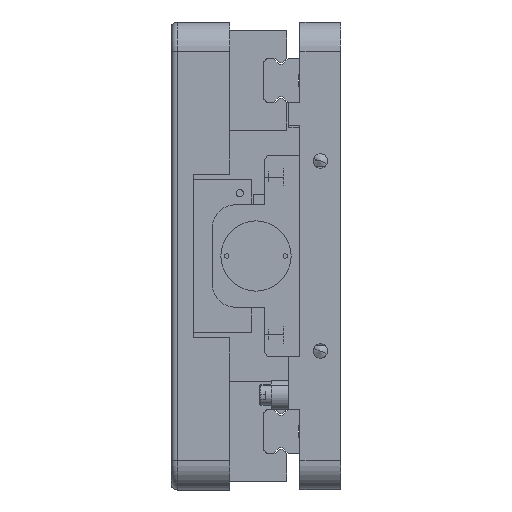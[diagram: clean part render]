
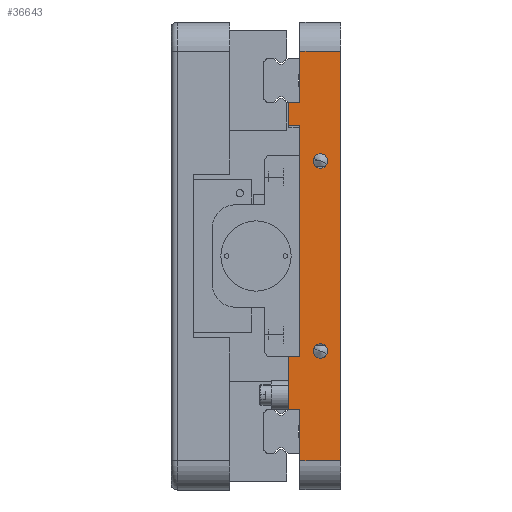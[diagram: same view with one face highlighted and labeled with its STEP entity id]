
A CAD part, left-side view. The second image highlights one B-rep face of the part: STEP entity #36643.
In plain terms, the highlighted planar face has unit normal (-1, 0, 0).
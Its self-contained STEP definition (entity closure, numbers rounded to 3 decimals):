
#3 = ORIENTED_EDGE ( 'NONE', *, *, #24467, .T. ) ;
#632 = VECTOR ( 'NONE', #18640, 1000. ) ;
#876 = EDGE_LOOP ( 'NONE', ( #13922, #3, #1436, #16928, #19367, #11763, #5750, #25355, #6249, #44823, #21766, #20881 ) ) ;
#1436 = ORIENTED_EDGE ( 'NONE', *, *, #7743, .T. ) ;
#1982 = ORIENTED_EDGE ( 'NONE', *, *, #30926, .F. ) ;
#2080 = DIRECTION ( 'NONE',  ( 0., 1., 0. ) ) ;
#2198 = DIRECTION ( 'NONE',  ( 0., 0., 1. ) ) ;
#2288 = LINE ( 'NONE', #8431, #38665 ) ;
#2707 = VERTEX_POINT ( 'NONE', #34325 ) ;
#3106 = CARTESIAN_POINT ( 'NONE',  ( -261.5, 7., -32.5 ) ) ;
#3333 = CARTESIAN_POINT ( 'NONE',  ( -261.5, 17.8, 70. ) ) ;
#3820 = EDGE_CURVE ( 'NONE', #29417, #30679, #15037, .T. ) ;
#4719 = VERTEX_POINT ( 'NONE', #11824 ) ;
#4997 = CARTESIAN_POINT ( 'NONE',  ( -261.5, 17.8, 52.5 ) ) ;
#5750 = ORIENTED_EDGE ( 'NONE', *, *, #3820, .T. ) ;
#6088 = VECTOR ( 'NONE', #14684, 1000. ) ;
#6249 = ORIENTED_EDGE ( 'NONE', *, *, #8070, .F. ) ;
#6602 = CIRCLE ( 'NONE', #21169, 2.5 ) ;
#6747 = VECTOR ( 'NONE', #29387, 1000. ) ;
#7493 = VERTEX_POINT ( 'NONE', #47288 ) ;
#7622 = AXIS2_PLACEMENT_3D ( 'NONE', #36233, #32754, #21485 ) ;
#7743 = EDGE_CURVE ( 'NONE', #48669, #10560, #27590, .T. ) ;
#8070 = EDGE_CURVE ( 'NONE', #17745, #23411, #21032, .T. ) ;
#8406 = CARTESIAN_POINT ( 'NONE',  ( -261.5, 17.8, -80. ) ) ;
#8431 = CARTESIAN_POINT ( 'NONE',  ( -261.5, 14., -80. ) ) ;
#8952 = DIRECTION ( 'NONE',  ( 0., 0., -1. ) ) ;
#8996 = DIRECTION ( 'NONE',  ( -1., 0., 0. ) ) ;
#10560 = VERTEX_POINT ( 'NONE', #33164 ) ;
#10596 = DIRECTION ( 'NONE',  ( 0., 0., -1. ) ) ;
#10709 = CARTESIAN_POINT ( 'NONE',  ( -261.5, -110.209, 44.5 ) ) ;
#10748 = CARTESIAN_POINT ( 'NONE',  ( -261.5, 17.8, -80. ) ) ;
#11723 = VECTOR ( 'NONE', #10596, 1000. ) ;
#11763 = ORIENTED_EDGE ( 'NONE', *, *, #36133, .F. ) ;
#11824 = CARTESIAN_POINT ( 'NONE',  ( -261.5, 7., -30. ) ) ;
#12224 = CARTESIAN_POINT ( 'NONE',  ( -261.5, 17.8, -70. ) ) ;
#13326 = CARTESIAN_POINT ( 'NONE',  ( -261.5, 7., 32.5 ) ) ;
#13523 = ORIENTED_EDGE ( 'NONE', *, *, #28416, .F. ) ;
#13889 = VECTOR ( 'NONE', #2198, 1000. ) ;
#13922 = ORIENTED_EDGE ( 'NONE', *, *, #21075, .T. ) ;
#14388 = FACE_OUTER_BOUND ( 'NONE', #876, .T. ) ;
#14612 = VECTOR ( 'NONE', #15849, 1000. ) ;
#14684 = DIRECTION ( 'NONE',  ( 0., 1., 0. ) ) ;
#15005 = FACE_BOUND ( 'NONE', #46132, .T. ) ;
#15026 = AXIS2_PLACEMENT_3D ( 'NONE', #3106, #29371, #40378 ) ;
#15037 = LINE ( 'NONE', #24068, #34378 ) ;
#15185 = DIRECTION ( 'NONE',  ( 1., 0., 0. ) ) ;
#15514 = CARTESIAN_POINT ( 'NONE',  ( -261.5, 0., -70. ) ) ;
#15849 = DIRECTION ( 'NONE',  ( 0., 0., 1. ) ) ;
#15901 = EDGE_CURVE ( 'NONE', #45512, #38316, #33087, .T. ) ;
#16344 = ORIENTED_EDGE ( 'NONE', *, *, #21728, .F. ) ;
#16527 = LINE ( 'NONE', #10748, #632 ) ;
#16578 = CARTESIAN_POINT ( 'NONE',  ( -261.5, 7., -35. ) ) ;
#16804 = LINE ( 'NONE', #10709, #6747 ) ;
#16844 = CARTESIAN_POINT ( 'NONE',  ( -261.5, 0., -80. ) ) ;
#16928 = ORIENTED_EDGE ( 'NONE', *, *, #36676, .T. ) ;
#17008 = VERTEX_POINT ( 'NONE', #16578 ) ;
#17123 = DIRECTION ( 'NONE',  ( -1., 0., 0. ) ) ;
#17745 = VERTEX_POINT ( 'NONE', #44159 ) ;
#17774 = VECTOR ( 'NONE', #2080, 1000. ) ;
#17928 = VECTOR ( 'NONE', #36971, 1000. ) ;
#17989 = CARTESIAN_POINT ( 'NONE',  ( -261.5, 14., 70. ) ) ;
#18259 = CARTESIAN_POINT ( 'NONE',  ( -261.5, 17.8, -34.5 ) ) ;
#18640 = DIRECTION ( 'NONE',  ( 0., 0., 1. ) ) ;
#19367 = ORIENTED_EDGE ( 'NONE', *, *, #39493, .F. ) ;
#20015 = CARTESIAN_POINT ( 'NONE',  ( -261.5, -523.722, -52.5 ) ) ;
#20881 = ORIENTED_EDGE ( 'NONE', *, *, #15901, .T. ) ;
#21032 = LINE ( 'NONE', #8406, #14612 ) ;
#21075 = EDGE_CURVE ( 'NONE', #38316, #7493, #47898, .T. ) ;
#21169 = AXIS2_PLACEMENT_3D ( 'NONE', #13326, #17123, #36080 ) ;
#21485 = DIRECTION ( 'NONE',  ( 0., 0., 1. ) ) ;
#21496 = CARTESIAN_POINT ( 'NONE',  ( -261.5, 14., -70. ) ) ;
#21728 = EDGE_CURVE ( 'NONE', #17008, #4719, #42725, .T. ) ;
#21766 = ORIENTED_EDGE ( 'NONE', *, *, #27697, .T. ) ;
#21842 = LINE ( 'NONE', #35824, #17774 ) ;
#22022 = CARTESIAN_POINT ( 'NONE',  ( -261.5, 14., 44.5 ) ) ;
#23411 = VERTEX_POINT ( 'NONE', #18259 ) ;
#24068 = CARTESIAN_POINT ( 'NONE',  ( -261.5, 14., 44.5 ) ) ;
#24467 = EDGE_CURVE ( 'NONE', #7493, #48669, #29622, .T. ) ;
#24992 = FACE_BOUND ( 'NONE', #32747, .T. ) ;
#25355 = ORIENTED_EDGE ( 'NONE', *, *, #32886, .T. ) ;
#25371 = VERTEX_POINT ( 'NONE', #28858 ) ;
#26173 = DIRECTION ( 'NONE',  ( 0., 0., -1. ) ) ;
#26657 = CARTESIAN_POINT ( 'NONE',  ( -261.5, 17.8, -80. ) ) ;
#27026 = CIRCLE ( 'NONE', #42853, 2.5 ) ;
#27472 = DIRECTION ( 'NONE',  ( 0., -1., 0. ) ) ;
#27590 = LINE ( 'NONE', #40773, #11723 ) ;
#27697 = EDGE_CURVE ( 'NONE', #34792, #45512, #2288, .T. ) ;
#27726 = CARTESIAN_POINT ( 'NONE',  ( -261.5, 14., -52.5 ) ) ;
#28416 = EDGE_CURVE ( 'NONE', #2707, #43069, #27026, .T. ) ;
#28858 = CARTESIAN_POINT ( 'NONE',  ( -261.5, 17.8, 44.5 ) ) ;
#29371 = DIRECTION ( 'NONE',  ( -1., 0., 0. ) ) ;
#29387 = DIRECTION ( 'NONE',  ( 0., 1., 0. ) ) ;
#29417 = VERTEX_POINT ( 'NONE', #22022 ) ;
#29622 = LINE ( 'NONE', #3333, #17928 ) ;
#30428 = DIRECTION ( 'NONE',  ( 0., 0., 1. ) ) ;
#30679 = VERTEX_POINT ( 'NONE', #45642 ) ;
#30926 = EDGE_CURVE ( 'NONE', #4719, #17008, #32028, .T. ) ;
#32028 = CIRCLE ( 'NONE', #15026, 2.5 ) ;
#32265 = EDGE_CURVE ( 'NONE', #34792, #17745, #37197, .T. ) ;
#32702 = VERTEX_POINT ( 'NONE', #4997 ) ;
#32747 = EDGE_LOOP ( 'NONE', ( #1982, #16344 ) ) ;
#32754 = DIRECTION ( 'NONE',  ( -1., 0., 0. ) ) ;
#32886 = EDGE_CURVE ( 'NONE', #30679, #23411, #21842, .T. ) ;
#33087 = LINE ( 'NONE', #12224, #35448 ) ;
#33164 = CARTESIAN_POINT ( 'NONE',  ( -261.5, 14., 52.5 ) ) ;
#33620 = VECTOR ( 'NONE', #35064, 1000. ) ;
#34325 = CARTESIAN_POINT ( 'NONE',  ( -261.5, 7., 30. ) ) ;
#34378 = VECTOR ( 'NONE', #8952, 1000. ) ;
#34792 = VERTEX_POINT ( 'NONE', #27726 ) ;
#35064 = DIRECTION ( 'NONE',  ( 0., 1., 0. ) ) ;
#35448 = VECTOR ( 'NONE', #27472, 1000. ) ;
#35824 = CARTESIAN_POINT ( 'NONE',  ( -261.5, -110.209, -34.5 ) ) ;
#36080 = DIRECTION ( 'NONE',  ( 0., 0., 1. ) ) ;
#36133 = EDGE_CURVE ( 'NONE', #29417, #25371, #16804, .T. ) ;
#36233 = CARTESIAN_POINT ( 'NONE',  ( -261.5, 7., -32.5 ) ) ;
#36643 = ADVANCED_FACE ( 'NONE', ( #24992, #15005, #14388 ), #44515, .F. ) ;
#36676 = EDGE_CURVE ( 'NONE', #10560, #32702, #37248, .T. ) ;
#36971 = DIRECTION ( 'NONE',  ( 0., 1., 0. ) ) ;
#37197 = LINE ( 'NONE', #20015, #33620 ) ;
#37248 = LINE ( 'NONE', #48442, #6088 ) ;
#38316 = VERTEX_POINT ( 'NONE', #15514 ) ;
#38665 = VECTOR ( 'NONE', #41737, 1000. ) ;
#39493 = EDGE_CURVE ( 'NONE', #25371, #32702, #16527, .T. ) ;
#39988 = CARTESIAN_POINT ( 'NONE',  ( -261.5, 7., 35. ) ) ;
#40378 = DIRECTION ( 'NONE',  ( 0., 0., 1. ) ) ;
#40773 = CARTESIAN_POINT ( 'NONE',  ( -261.5, 14., 80. ) ) ;
#41737 = DIRECTION ( 'NONE',  ( 0., 0., -1. ) ) ;
#41839 = CARTESIAN_POINT ( 'NONE',  ( -261.5, 7., 32.5 ) ) ;
#42211 = AXIS2_PLACEMENT_3D ( 'NONE', #26657, #15185, #26173 ) ;
#42725 = CIRCLE ( 'NONE', #7622, 2.5 ) ;
#42853 = AXIS2_PLACEMENT_3D ( 'NONE', #41839, #8996, #30428 ) ;
#43069 = VERTEX_POINT ( 'NONE', #39988 ) ;
#43404 = ORIENTED_EDGE ( 'NONE', *, *, #45299, .F. ) ;
#44159 = CARTESIAN_POINT ( 'NONE',  ( -261.5, 17.8, -52.5 ) ) ;
#44515 = PLANE ( 'NONE',  #42211 ) ;
#44823 = ORIENTED_EDGE ( 'NONE', *, *, #32265, .F. ) ;
#45299 = EDGE_CURVE ( 'NONE', #43069, #2707, #6602, .T. ) ;
#45512 = VERTEX_POINT ( 'NONE', #21496 ) ;
#45642 = CARTESIAN_POINT ( 'NONE',  ( -261.5, 14., -34.5 ) ) ;
#46132 = EDGE_LOOP ( 'NONE', ( #43404, #13523 ) ) ;
#47288 = CARTESIAN_POINT ( 'NONE',  ( -261.5, 0., 70. ) ) ;
#47898 = LINE ( 'NONE', #16844, #13889 ) ;
#48442 = CARTESIAN_POINT ( 'NONE',  ( -261.5, -523.722, 52.5 ) ) ;
#48669 = VERTEX_POINT ( 'NONE', #17989 ) ;
